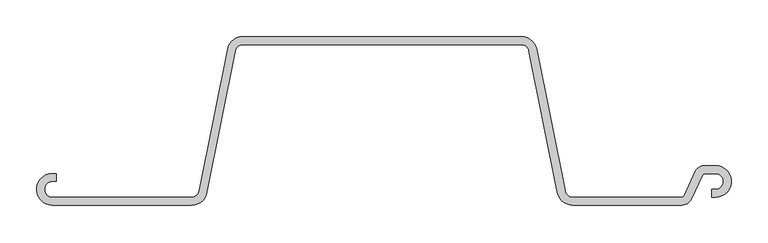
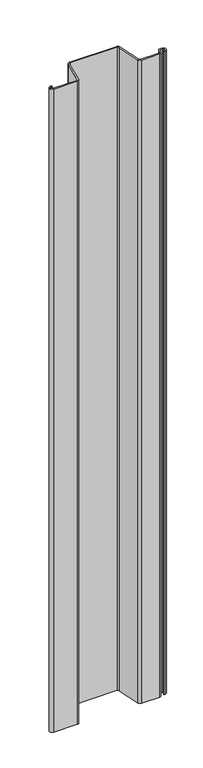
"""IFC4 building model written with IfcOpenShell, lengths in millimetres: proxy geometry, 鋼矢板10H型 : 鋼矢板10H型."""

import ifcopenshell
import ifcopenshell.guid

model = None  # the IFC model being written
_history = None  # IfcOwnerHistory: only IFC2X3 demands one
_inside = {}  # id of a spatial element -> (the spatial element, [elements in it])
_under = {}  # id of a project, library or spatial element -> (it, [spatial elements below it])
_declared = {}  # id of a project -> (the project, [libraries it declares])
_typed = {}  # id of a type object -> (the type object, [elements of that type])
_made_of = {}  # id of a material, layer set ... -> (it, [elements and type objects made of it])


def new_model(schema):
    """Start an empty IFC model of exactly this schema.

    Asked for "IFC4X3", IfcOpenShell would pick the latest addendum, in which some entities
    have other attributes; the version numbers below select the first issue.
    IFC2X3 requires an IfcOwnerHistory on every rooted entity: one is made here for all.
    """
    global model, _history
    if schema == "IFC4X3":
        model = ifcopenshell.file(schema_version=(4, 3, 0, 0))
    else:
        model = ifcopenshell.file(schema=schema)
    _inside.clear()
    _under.clear()
    _declared.clear()
    _typed.clear()
    _made_of.clear()
    _history = None
    if model.schema == "IFC2X3":
        org = make("IfcOrganization", Name="unknown")
        user = make(
            "IfcPersonAndOrganization",
            ThePerson=make("IfcPerson", FamilyName="unknown"),
            TheOrganization=org,
        )
        app = make(
            "IfcApplication",
            ApplicationDeveloper=org,
            Version="unknown",
            ApplicationFullName="unknown",
            ApplicationIdentifier="unknown",
        )
        _history = make(
            "IfcOwnerHistory",
            OwningUser=user,
            OwningApplication=app,
            ChangeAction="ADDED",
            CreationDate=0,
        )
    return model


def make(cls, **values):
    """One entity of the class cls with the attributes given. An attribute that is None is left unset."""
    return model.create_entity(
        cls, **{name: value for name, value in values.items() if value is not None}
    )


def rooted(cls, **values):
    """An entity with a GlobalId (a new one), such as an element, a storey or a relation."""
    return make(cls, GlobalId=ifcopenshell.guid.new(), OwnerHistory=_history, **values)


def si_unit(unit_type, name, prefix=None):
    """IfcSIUnit, for example si_unit("LENGTHUNIT", "METRE", prefix="MILLI")."""
    return make("IfcSIUnit", UnitType=unit_type, Prefix=prefix, Name=name)


def assignment(units):
    """IfcUnitAssignment: the units of a project."""
    return None if units is None else make("IfcUnitAssignment", Units=units)


def point(xyz):
    """IfcCartesianPoint."""
    return None if xyz is None else make("IfcCartesianPoint", Coordinates=xyz)


def direction(xyz):
    """IfcDirection."""
    return None if xyz is None else make("IfcDirection", DirectionRatios=xyz)


def frame(location, z_axis=None, x_axis=None):
    """IfcAxis2Placement3D, a coordinate frame: its origin and axes. An axis left out is left unset."""
    return make(
        "IfcAxis2Placement3D",
        Location=point(location),
        Axis=direction(z_axis),
        RefDirection=direction(x_axis),
    )


def frame_2d(location, x_axis=None):
    """IfcAxis2Placement2D, a coordinate frame in the plane: its origin and x axis."""
    return make(
        "IfcAxis2Placement2D", Location=point(location), RefDirection=direction(x_axis)
    )


def origin():
    """The frame at (0, 0, 0) with its axes left unset."""
    return frame((0.0, 0.0, 0.0))


def place(relative_to, where):
    """IfcLocalPlacement: puts the frame where relative to a parent placement (None: the world)."""
    return make(
        "IfcLocalPlacement", PlacementRelTo=relative_to, RelativePlacement=where
    )


def context(
    kind, dimensions, precision=None, world=None, true_north=None, identifier=None
):
    """IfcGeometricRepresentationContext, for example the 3D "Model" context."""
    return make(
        "IfcGeometricRepresentationContext",
        ContextIdentifier=identifier,
        ContextType=kind,
        CoordinateSpaceDimension=dimensions,
        Precision=precision,
        WorldCoordinateSystem=world,
        TrueNorth=true_north,
    )


def project(units=None, contexts=None):
    """IfcProject with its units and contexts."""
    return rooted(
        "IfcProject",
        Name="project",
        RepresentationContexts=contexts,
        UnitsInContext=assignment(units),
    )


def spatial(cls, under=None, at=None, **own):
    """A site, building, storey or space (cls), placed at a placement, below another one or the project."""
    s = rooted(cls, ObjectPlacement=at, **own)
    if under is not None:
        _under.setdefault(under.id(), (under, []))[1].append(s)
    return s


def polyline(points):
    """IfcPolyline through the points."""
    return make("IfcPolyline", Points=[point(p) for p in points])


def circle_curve(where, radius):
    """IfcCircle in the frame where."""
    return make("IfcCircle", Position=where, Radius=radius)


def trimmed(basis, trim1, trim2, sense, master):
    """IfcTrimmedCurve: the piece of a basis curve between two trims."""
    return make(
        "IfcTrimmedCurve",
        BasisCurve=basis,
        Trim1=trim1,
        Trim2=trim2,
        SenseAgreement=sense,
        MasterRepresentation=master,
    )


def segment(curve, same_sense, transition):
    """IfcCompositeCurveSegment."""
    return make(
        "IfcCompositeCurveSegment",
        Transition=transition,
        SameSense=same_sense,
        ParentCurve=curve,
    )


def composite_curve(segments, self_intersect=None):
    """IfcCompositeCurve: segments joined end to end."""
    return make("IfcCompositeCurve", Segments=segments, SelfIntersect=self_intersect)


def outline(outer, holes=None, kind="AREA"):
    """IfcArbitraryClosedProfileDef: a profile drawn as a closed curve; with holes, ...WithVoids."""
    if holes is None:
        return make("IfcArbitraryClosedProfileDef", ProfileType=kind, OuterCurve=outer)
    return make(
        "IfcArbitraryProfileDefWithVoids",
        ProfileType=kind,
        OuterCurve=outer,
        InnerCurves=holes,
    )


def extrude(swept, where, along, depth):
    """IfcExtrudedAreaSolid: the profile swept, set in the frame where, extruded along a direction by depth."""
    return make(
        "IfcExtrudedAreaSolid",
        SweptArea=swept,
        Position=where,
        ExtrudedDirection=direction(along),
        Depth=depth,
    )


def shape(context_of_items, identifier, shape_type, items):
    """IfcShapeRepresentation: the items that make up one representation, for example the "Body"."""
    return make(
        "IfcShapeRepresentation",
        ContextOfItems=context_of_items,
        RepresentationIdentifier=identifier,
        RepresentationType=shape_type,
        Items=items,
    )


def source(mapping_origin, context_of_items, identifier, shape_type, items):
    """IfcRepresentationMap: a shape defined once, which mapped items show again and again."""
    return make(
        "IfcRepresentationMap",
        MappingOrigin=mapping_origin,
        MappedRepresentation=shape(context_of_items, identifier, shape_type, items),
    )


def transform(
    local_origin,
    x_axis=None,
    y_axis=None,
    z_axis=None,
    scale=None,
    scale2=None,
    scale3=None,
    uniform=True,
):
    """IfcCartesianTransformationOperator3D, or its non-uniform kind. x_axis, y_axis, z_axis: its Axis1, 2, 3."""
    if uniform:
        return make(
            "IfcCartesianTransformationOperator3D",
            Axis1=direction(x_axis),
            Axis2=direction(y_axis),
            LocalOrigin=point(local_origin),
            Scale=scale,
            Axis3=direction(z_axis),
        )
    return make(
        "IfcCartesianTransformationOperator3DnonUniform",
        Axis1=direction(x_axis),
        Axis2=direction(y_axis),
        LocalOrigin=point(local_origin),
        Scale=scale,
        Axis3=direction(z_axis),
        Scale2=scale2,
        Scale3=scale3,
    )


def mapped(mapping_source, mapping_target):
    """IfcMappedItem: shows the shape of a source again, moved by a transform."""
    return make(
        "IfcMappedItem", MappingSource=mapping_source, MappingTarget=mapping_target
    )


def made_of(thing, what):
    """Note that an element or type object is made of a material, layer set ...; save() writes the relation."""
    if what is not None:
        _made_of.setdefault(what.id(), (what, []))[1].append(thing)
    return thing


def element(
    cls,
    number,
    at=None,
    inside=None,
    cuts=None,
    type_object=None,
    material=None,
    context=None,
    identifier="Body",
    shape_type=None,
    held_by="IfcProductDefinitionShape",
    body=None,
    shapes=None,
    **own,
):
    """One element of the class cls, such as IfcWall. Its Tag is "e" and its number.

    at: its placement. inside: the storey or other place that contains it. cuts: it is an
    opening in that element (IfcRelVoidsElement). A single representation is given by context,
    identifier, shape_type and body (its items); several are given by shapes. held_by: the class
    of the entity that holds the representations. save() writes the other relations.
    """
    e = rooted(cls, Tag="e%d" % number, ObjectPlacement=at, **own)
    if body is not None:
        shapes = [shape(context, identifier, shape_type, body)]
    if shapes is not None:
        e.Representation = make(held_by, Representations=shapes)
    if inside is not None:
        _inside.setdefault(inside.id(), (inside, []))[1].append(e)
    if cuts is not None:
        rooted(
            "IfcRelVoidsElement", RelatingBuildingElement=cuts, RelatedOpeningElement=e
        )
    if type_object is not None:
        _typed.setdefault(type_object.id(), (type_object, []))[1].append(e)
    return made_of(e, material)


def aggregate(whole, parts):
    """IfcRelAggregates: a whole, such as a stair, and the parts it consists of."""
    return rooted("IfcRelAggregates", RelatingObject=whole, RelatedObjects=parts)


def save(model, path):
    """Write the relations noted so far, then the file.

    IfcRelAggregates (storeys below a building ...), IfcRelContainedInSpatialStructure (elements
    in a storey), IfcRelDefinesByType, IfcRelAssociatesMaterial and IfcRelDeclares: one each for
    every whole, place, type object, material and project.
    """
    for whole, parts in _under.values():
        aggregate(whole, parts)
    for where, things in _inside.values():
        rooted(
            "IfcRelContainedInSpatialStructure",
            RelatedElements=things,
            RelatingStructure=where,
        )
    for kind, things in _typed.values():
        rooted("IfcRelDefinesByType", RelatedObjects=things, RelatingType=kind)
    for what, things in _made_of.values():
        rooted("IfcRelAssociatesMaterial", RelatedObjects=things, RelatingMaterial=what)
    for by, libraries in _declared.values():
        rooted("IfcRelDeclares", RelatingContext=by, RelatedDefinitions=libraries)
    model.write(path)


def generic_models_769bab11(model_context):
    return source(origin(), model_context, "Body", "SweptSolid", [
        extrude(outline(composite_curve([segment(trimmed(circle_curve(frame_2d((409.1972607, -101.1142857)), 13.8857143), [point((421.7819917, -106.9826421))], [point((409.1972607, -115.0))], False, "CARTESIAN"), True, "CONTINUOUS"), segment(polyline([(409.1972607, -115.0), (260.2008232, -115.0)]), True, "CONTINUOUS"), segment(trimmed(circle_curve(frame_2d((260.2008232, -93.4)), 21.6), [point((260.2008232, -115.0))], [point((239.0202806, -97.6361085))], False, "CARTESIAN"), True, "CONTINUOUS"), segment(polyline([(239.0202806, -97.6361085), (200.3894481, 95.5180543)]), True, "CONTINUOUS"), segment(trimmed(circle_curve(frame_2d((189.7991768, 93.4)), 10.8), [point((200.3894481, 95.5180543))], [point((189.7991768, 104.2))], True, "CARTESIAN"), True, "CONTINUOUS"), segment(polyline([(189.7991768, 104.2), (-189.7991768, 104.2)]), True, "CONTINUOUS"), segment(trimmed(circle_curve(frame_2d((-189.7991768, 93.4)), 10.8), [point((-189.7991768, 104.2))], [point((-200.3894481, 95.5180543))], True, "CARTESIAN"), True, "CONTINUOUS"), segment(polyline([(-200.3894481, 95.5180543), (-239.0202806, -97.6361085)]), True, "CONTINUOUS"), segment(trimmed(circle_curve(frame_2d((-260.2008232, -93.4)), 21.6), [point((-239.0202806, -97.6361085))], [point((-260.2008232, -115.0))], False, "CARTESIAN"), True, "CONTINUOUS"), segment(polyline([(-260.2008232, -115.0), (-450.0, -115.0)]), True, "CONTINUOUS"), segment(trimmed(circle_curve(frame_2d((-450.0, -93.4)), 21.6), [point((-450.0, -115.0))], [point((-450.0, -71.8))], False, "CARTESIAN"), True, "CONTINUOUS"), segment(polyline([(-450.0, -71.8), (-445.0, -71.8), (-445.0, -82.6), (-450.0, -82.6)]), True, "CONTINUOUS"), segment(trimmed(circle_curve(frame_2d((-450.0, -93.4)), 10.8), [point((-450.0, -82.6))], [point((-450.0, -104.2))], True, "CARTESIAN"), True, "CONTINUOUS"), segment(polyline([(-450.0, -104.2), (-260.2008232, -104.2)]), True, "CONTINUOUS"), segment(trimmed(circle_curve(frame_2d((-260.2008232, -93.4)), 10.8), [point((-260.2008232, -104.2))], [point((-249.6105519, -95.5180543))], True, "CARTESIAN"), True, "CONTINUOUS"), segment(polyline([(-249.6105519, -95.5180543), (-210.9797194, 97.6361085)]), True, "CONTINUOUS"), segment(trimmed(circle_curve(frame_2d((-189.7991768, 93.4)), 21.6), [point((-210.9797194, 97.6361085))], [point((-189.7991768, 115.0))], False, "CARTESIAN"), True, "CONTINUOUS"), segment(polyline([(-189.7991768, 115.0), (189.7991768, 115.0)]), True, "CONTINUOUS"), segment(trimmed(circle_curve(frame_2d((189.7991768, 93.4)), 21.6), [point((189.7991768, 115.0))], [point((210.9797194, 97.6361085))], False, "CARTESIAN"), True, "CONTINUOUS"), segment(polyline([(210.9797194, 97.6361085), (249.6105519, -95.5180543)]), True, "CONTINUOUS"), segment(trimmed(circle_curve(frame_2d((260.2008232, -93.4)), 10.8), [point((249.6105519, -95.5180543))], [point((260.2008232, -104.2))], True, "CARTESIAN"), True, "CONTINUOUS"), segment(polyline([(260.2008232, -104.2), (409.1972607, -104.2)]), True, "CONTINUOUS"), segment(trimmed(circle_curve(frame_2d((409.1972607, -101.1142857)), 3.0857143), [point((409.1972607, -104.2))], [point((411.9938676, -102.4183649))], True, "CARTESIAN"), True, "CONTINUOUS"), segment(polyline([(411.9938676, -102.4183649), (427.569013, -69.0173579)]), True, "CONTINUOUS"), segment(trimmed(circle_curve(frame_2d((440.153744, -74.8857143)), 13.8857143), [point((427.569013, -69.0173579))], [point((440.153744, -61.0))], False, "CARTESIAN"), True, "CONTINUOUS"), segment(polyline([(440.153744, -61.0), (455.0, -61.0)]), True, "CONTINUOUS"), segment(trimmed(circle_curve(frame_2d((455.0, -82.6)), 21.6), [point((455.0, -61.0))], [point((455.0, -104.2))], False, "CARTESIAN"), True, "CONTINUOUS"), segment(polyline([(455.0, -104.2), (450.0, -104.2), (450.0, -93.4), (455.0, -93.4)]), True, "CONTINUOUS"), segment(trimmed(circle_curve(frame_2d((455.0, -82.6)), 10.8), [point((455.0, -93.4))], [point((455.0, -71.8))], True, "CARTESIAN"), True, "CONTINUOUS"), segment(polyline([(455.0, -71.8), (440.153744, -71.8)]), True, "CONTINUOUS"), segment(trimmed(circle_curve(frame_2d((440.153744, -74.8857143)), 3.0857143), [point((440.153744, -71.8))], [point((437.3571371, -73.5816351))], True, "CARTESIAN"), True, "CONTINUOUS"), segment(polyline([(437.3571371, -73.5816351), (421.7819917, -106.9826421)]), True, "CONTINUOUS")], self_intersect=False)), frame((0.0, 0.0, -5500.0), z_axis=(0.0, 0.0, 1.0), x_axis=(1.0, 0.0, 0.0)), (0.0, 0.0, 1.0), 5500.0),
    ])


if __name__ == "__main__":
    model = new_model("IFC4")
    model_context = context("Model", 3, world=origin())
    ifc_project = project(units=[si_unit("LENGTHUNIT", "METRE", prefix="MILLI")], contexts=[model_context])
    site = spatial("IfcSite", under=ifc_project)
    building = spatial("IfcBuilding", under=site)
    placement = place(None, origin())
    generic_models_shape = generic_models_769bab11(model_context)
    element("IfcBuildingElementProxy", 1, Name="鋼矢板10H型 : 鋼矢板10H型", ObjectType="鋼矢板10H型 : 鋼矢板10H型", at=placement, inside=building, context=model_context, shape_type="MappedRepresentation", body=[
        mapped(generic_models_shape, transform((0.0, 0.0, 0.0), x_axis=(1.0, 0.0, 0.0), y_axis=(0.0, 1.0, 0.0), z_axis=(0.0, 0.0, 1.0))),
    ])
    save(model, "model.ifc")
